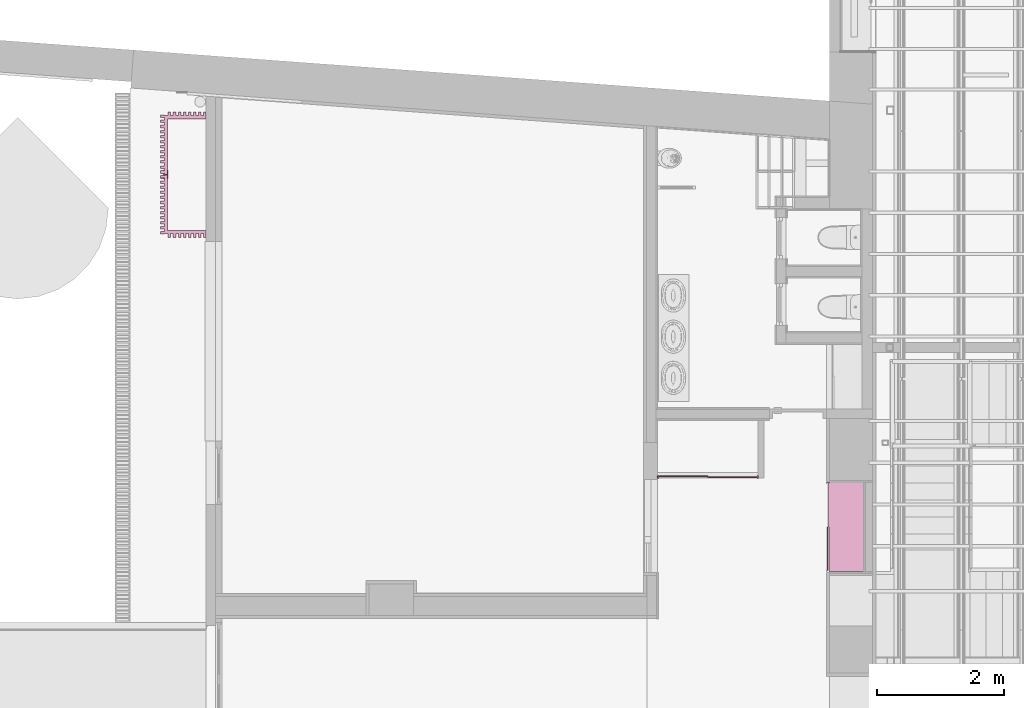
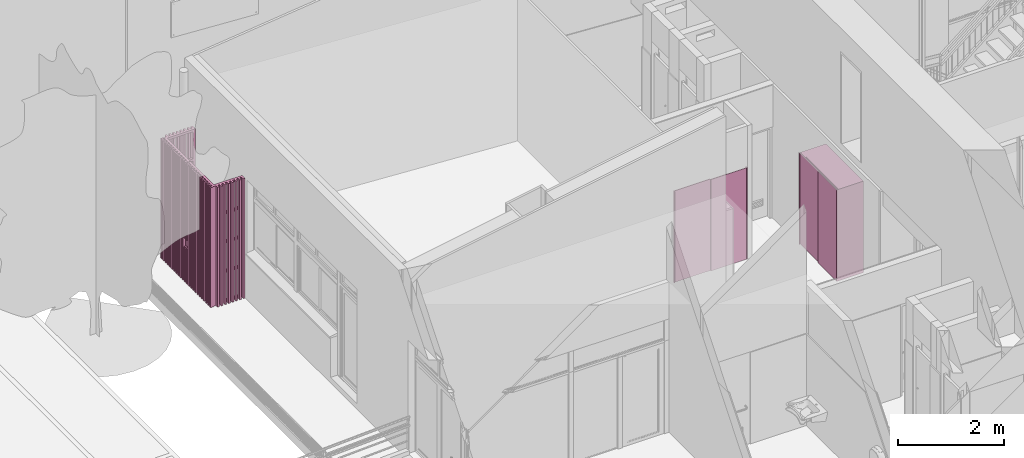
# One storey, part 70 of 75: 3 furnishings.
"""IFC2X3 building model written with IfcOpenShell, lengths in metres."""

from ifc_helpers import new_model, entity, si_unit, converted_unit, derived_unit, direction, frame, frame_2d, origin, origin_2d_with_axis, place, context, subcontext, project, spatial, polyline, rectangle, outline, extrude, source, transform, mapped, material, material_list, type_object, type_shapes, element, save


model = new_model("IFC2X3")

# Units and contexts
model_context = context("Model", 3, precision=1e-05, world=origin(), true_north=direction((6.12303176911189e-17, 1.0)))
body_context = subcontext(model_context, "Body", "Model", "MODEL_VIEW")
ifc_project = project(units=[si_unit("LENGTHUNIT", "METRE"), si_unit("AREAUNIT", "SQUARE_METRE"), si_unit("VOLUMEUNIT", "CUBIC_METRE"), converted_unit("PLANEANGLEUNIT", "DEGREE", entity("IfcRatioMeasure", 0.0174532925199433), si_unit("PLANEANGLEUNIT", "RADIAN"), dimensions=[0, 0, 0, 0, 0, 0, 0]), si_unit("MASSUNIT", "GRAM", prefix="KILO"), derived_unit("MASSDENSITYUNIT", [(si_unit("MASSUNIT", "GRAM", prefix="KILO"), 1), (si_unit("LENGTHUNIT", "METRE"), -3)]), derived_unit("MOMENTOFINERTIAUNIT", [(si_unit("LENGTHUNIT", "METRE"), 4)]), si_unit("TIMEUNIT", "SECOND"), si_unit("FREQUENCYUNIT", "HERTZ"), si_unit("THERMODYNAMICTEMPERATUREUNIT", "DEGREE_CELSIUS"), derived_unit("THERMALTRANSMITTANCEUNIT", [(si_unit("MASSUNIT", "GRAM", prefix="KILO"), 1), (si_unit("THERMODYNAMICTEMPERATUREUNIT", "KELVIN"), -1), (si_unit("TIMEUNIT", "SECOND"), -3)]), derived_unit("VOLUMETRICFLOWRATEUNIT", [(si_unit("LENGTHUNIT", "METRE"), 3), (si_unit("TIMEUNIT", "SECOND"), -1)]), si_unit("ELECTRICCURRENTUNIT", "AMPERE"), si_unit("ELECTRICVOLTAGEUNIT", "VOLT"), si_unit("POWERUNIT", "WATT"), si_unit("FORCEUNIT", "NEWTON", prefix="KILO"), si_unit("ILLUMINANCEUNIT", "LUX"), si_unit("LUMINOUSFLUXUNIT", "LUMEN"), si_unit("LUMINOUSINTENSITYUNIT", "CANDELA"), derived_unit("USERDEFINED", [(si_unit("MASSUNIT", "GRAM", prefix="KILO"), -1), (si_unit("LENGTHUNIT", "METRE"), -2), (si_unit("TIMEUNIT", "SECOND"), 3), (si_unit("LUMINOUSFLUXUNIT", "LUMEN"), 1)]), derived_unit("LINEARVELOCITYUNIT", [(si_unit("LENGTHUNIT", "METRE"), 1), (si_unit("TIMEUNIT", "SECOND"), -1)]), si_unit("PRESSUREUNIT", "PASCAL"), derived_unit("USERDEFINED", [(si_unit("LENGTHUNIT", "METRE"), -2), (si_unit("MASSUNIT", "GRAM", prefix="KILO"), 1), (si_unit("TIMEUNIT", "SECOND"), -2)]), derived_unit("LINEARFORCEUNIT", [(si_unit("MASSUNIT", "GRAM", prefix="KILO"), 1), (si_unit("LENGTHUNIT", "METRE"), 1), (si_unit("TIMEUNIT", "SECOND"), -2), (si_unit("LENGTHUNIT", "METRE"), -1)]), derived_unit("PLANARFORCEUNIT", [(si_unit("MASSUNIT", "GRAM", prefix="KILO"), 1), (si_unit("LENGTHUNIT", "METRE"), 1), (si_unit("TIMEUNIT", "SECOND"), -2), (si_unit("LENGTHUNIT", "METRE"), -2)])], contexts=[model_context])

# Site, building, storey
site_placement = place(None, origin())
site = spatial("IfcSite", under=ifc_project, at=site_placement, Name="Superficie", CompositionType="ELEMENT")
building_placement = place(site_placement, origin())
building = spatial("IfcBuilding", under=site, at=building_placement, Name="Telegestiones", CompositionType="ELEMENT")
storey_placement = place(building_placement, origin())
storey = spatial("IfcBuildingStorey", under=building, at=storey_placement, Name="Nivel 0_NPT", CompositionType="ELEMENT", Elevation=0.0)

# Furnishings
ifc_material_1 = material(Name="Aluminio")
ifc_material_2 = material(Name="Acero")
ifc_material_3 = material(Name="<Unnamed>")
ifc_material_list_1 = material_list([ifc_material_1, ifc_material_1, ifc_material_2, ifc_material_2, ifc_material_2, ifc_material_2, ifc_material_1, ifc_material_1, ifc_material_1, ifc_material_1, ifc_material_1, ifc_material_1, ifc_material_1, ifc_material_1, ifc_material_1, ifc_material_1, ifc_material_1, ifc_material_1, ifc_material_1, ifc_material_1, ifc_material_1, ifc_material_1, ifc_material_1, ifc_material_1, ifc_material_1, ifc_material_1, ifc_material_1, ifc_material_1, ifc_material_1, ifc_material_1, ifc_material_1, ifc_material_1, ifc_material_1, ifc_material_1, ifc_material_1, ifc_material_1, ifc_material_1, ifc_material_1, ifc_material_1, ifc_material_1, ifc_material_1, ifc_material_1, ifc_material_1, ifc_material_1, ifc_material_1, ifc_material_1, ifc_material_3])
ifc_material_list_2 = material_list([ifc_material_1, ifc_material_1, ifc_material_2, ifc_material_2, ifc_material_2, ifc_material_2, ifc_material_1, ifc_material_1, ifc_material_1, ifc_material_1, ifc_material_1, ifc_material_1, ifc_material_1, ifc_material_1, ifc_material_1, ifc_material_1, ifc_material_1, ifc_material_1, ifc_material_1, ifc_material_1, ifc_material_1, ifc_material_1, ifc_material_1, ifc_material_1, ifc_material_1, ifc_material_1, ifc_material_1, ifc_material_1, ifc_material_1, ifc_material_1, ifc_material_1, ifc_material_1, ifc_material_1, ifc_material_1, ifc_material_1, ifc_material_1, ifc_material_1, ifc_material_1, ifc_material_1, ifc_material_1, ifc_material_1, ifc_material_1, ifc_material_1, ifc_material_1, ifc_material_1, ifc_material_1, ifc_material_3])
furniture_type_1 = type_object("IfcFurnitureType", Name="ARQ-MB-EX-Al:ARQ-MB-EX-Al", material=ifc_material_list_2)
shared_shape_1 = source(origin(), body_context, "Body", "SweptSolid", [
    extrude(rectangle(XDim=0.06, YDim=0.0450000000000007, at=frame_2d((6.76542155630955e-17, 0.0), x_axis=(1.0, 0.0))), frame((0.00220032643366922, -0.73, 1.0), z_axis=(0.0, 0.0, 1.0), x_axis=(0.0, -1.0, 0.0)), (0.0, 0.0, 1.0), 1.75),
    extrude(rectangle(XDim=0.0399999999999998, YDim=0.0600000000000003, at=frame_2d((0.0, 6.76542155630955e-17), x_axis=(1.0, 0.0))), frame((0.0797003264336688, -0.73, 1.0), z_axis=(0.0, 0.0, 1.0), x_axis=(-1.0, 0.0, 0.0)), (0.0, 0.0, 1.0), 1.75),
    extrude(outline(polyline([(-1.375, -0.305), (1.375, -0.305), (1.375, 0.305), (-1.375, 0.305), (-1.375, -0.305)]), holes=[polyline([(-0.650000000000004, -0.255), (-0.650000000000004, 0.255), (-0.0250000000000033, 0.255), (-0.0250000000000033, -0.255), (-0.650000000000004, -0.255)]), polyline([(0.699999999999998, 0.255), (1.325, 0.255), (1.325, -0.255), (0.699999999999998, -0.255), (0.699999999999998, 0.255)]), polyline([(0.0249999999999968, -0.255), (0.0249999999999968, 0.255), (0.649999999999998, 0.255), (0.649999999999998, -0.255), (0.0249999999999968, -0.255)]), polyline([(-1.325, -0.255), (-1.325, 0.255), (-0.700000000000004, 0.255), (-0.700000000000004, -0.255), (-1.325, -0.255)])]), frame((-0.885299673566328, -0.345, 1.375), z_axis=(1.0, 0.0, 0.0), x_axis=(0.0, 0.0, -1.0)), (0.0, 0.0, 1.0), 0.05),
    extrude(outline(polyline([(-1.375, -0.304999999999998), (1.375, -0.304999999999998), (1.375, 0.304999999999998), (-1.375, 0.304999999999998), (-1.375, -0.304999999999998)]), holes=[polyline([(1.325, -0.254999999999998), (0.699999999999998, -0.254999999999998), (0.699999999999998, 0.255000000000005), (1.325, 0.255000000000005), (1.325, -0.254999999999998)]), polyline([(0.0249999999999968, 0.255000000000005), (0.649999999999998, 0.255000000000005), (0.649999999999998, -0.254999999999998), (0.0249999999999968, -0.254999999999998), (0.0249999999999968, 0.255000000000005)]), polyline([(-1.325, 0.255000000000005), (-0.700000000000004, 0.255000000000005), (-0.700000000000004, -0.254999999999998), (-1.325, -0.254999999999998), (-1.325, 0.255000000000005)]), polyline([(-0.650000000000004, 0.255000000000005), (-0.0250000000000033, 0.255000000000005), (-0.0250000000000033, -0.254999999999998), (-0.650000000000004, -0.254999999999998), (-0.650000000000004, 0.255000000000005)])]), frame((0.924700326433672, -0.345000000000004, 1.375), z_axis=(1.0, 0.0, 0.0), x_axis=(0.0, 0.0, -1.0)), (0.0, 0.0, 1.0), 0.05),
    extrude(outline(polyline([(-0.462500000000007, -1.375), (0.462500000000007, -1.375), (0.462500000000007, 1.375), (-0.462500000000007, 1.375), (-0.462500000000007, -1.375)]), holes=[polyline([(0.422500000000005, 0.700000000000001), (-0.412499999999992, 0.700000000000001), (-0.412499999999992, 1.325), (0.422500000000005, 1.325), (0.422500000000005, 0.700000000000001)]), polyline([(-0.412499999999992, -1.325), (-0.412499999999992, -0.700000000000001), (0.422500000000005, -0.700000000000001), (0.422500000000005, -1.325), (-0.412499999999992, -1.325)]), polyline([(-0.412499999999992, 0.025), (-0.412499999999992, 0.650000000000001), (0.422500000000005, 0.650000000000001), (0.422500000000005, 0.025), (-0.412499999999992, 0.025)]), polyline([(-0.412499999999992, -0.650000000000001), (-0.412499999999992, -0.025), (0.422500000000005, -0.025), (0.422500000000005, -0.650000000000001), (-0.412499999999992, -0.650000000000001)])]), frame((0.512200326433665, -0.700000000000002, 1.375), z_axis=(0.0, 1.0, 0.0), x_axis=(1.0, 0.0, 0.0)), (0.0, 0.0, 1.0), 0.05),
    extrude(outline(polyline([(-0.462500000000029, -1.375), (0.46250000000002, -1.375), (0.46250000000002, 1.375), (-0.462500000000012, 1.375), (-0.462500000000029, -1.375)]), holes=[polyline([(-0.412500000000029, -1.325), (-0.412499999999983, -0.700000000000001), (0.41250000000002, -0.700000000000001), (0.41250000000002, -1.325), (-0.412500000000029, -1.325)]), polyline([(0.412499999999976, 0.700000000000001), (-0.412500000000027, 0.700000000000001), (-0.412500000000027, 1.325), (0.412499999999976, 1.325), (0.412499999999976, 0.700000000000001)]), polyline([(0.412499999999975, 0.025), (-0.412500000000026, 0.025), (-0.412500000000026, 0.650000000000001), (0.412499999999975, 0.650000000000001), (0.412499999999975, 0.025)]), polyline([(0.41250000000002, -0.650000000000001), (-0.412500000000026, -0.650000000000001), (-0.412500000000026, -0.025), (0.41250000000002, -0.025), (0.41250000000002, -0.650000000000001)])]), frame((-0.422799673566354, -0.7, 1.375), z_axis=(0.0, 1.0, 0.0), x_axis=(-1.0, 0.0, 0.0)), (0.0, 0.0, 1.0), 0.05),
    extrude(rectangle(XDim=0.0400000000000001, YDim=0.0600000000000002, at=frame_2d((0.0, 6.76542155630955e-17), x_axis=(1.0, 0.0))), frame((-0.875299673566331, -0.729999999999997, 0.0)), (0.0, 0.0, 1.0), 2.75),
    extrude(rectangle(XDim=0.04, YDim=0.06, at=frame_2d((0.0, 6.76542155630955e-17), x_axis=(1.0, 0.0))), frame((-0.915299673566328, -0.0599999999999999, 0.0), z_axis=(0.0, 0.0, 1.0), x_axis=(0.0, -1.0, 0.0)), (0.0, 0.0, 1.0), 2.75),
    extrude(rectangle(XDim=0.04, YDim=0.06, at=frame_2d((-1.73472347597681e-17, -6.76542155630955e-17), x_axis=(1.0, 0.0))), frame((-0.915299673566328, -0.14, 0.0), z_axis=(0.0, 0.0, 1.0), x_axis=(0.0, -1.0, 0.0)), (0.0, 0.0, 1.0), 2.75),
    extrude(rectangle(XDim=0.04, YDim=0.06, at=frame_2d((1.73472347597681e-17, -6.76542155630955e-17), x_axis=(1.0, 0.0))), frame((-0.915299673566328, -0.22, 0.0), z_axis=(0.0, 0.0, 1.0), x_axis=(0.0, -1.0, 0.0)), (0.0, 0.0, 1.0), 2.75),
    extrude(rectangle(XDim=0.04, YDim=0.06, at=frame_2d((-1.73472347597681e-17, -6.76542155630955e-17), x_axis=(1.0, 0.0))), frame((-0.915299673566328, -0.3, 0.0), z_axis=(0.0, 0.0, 1.0), x_axis=(0.0, -1.0, 0.0)), (0.0, 0.0, 1.0), 2.75),
    extrude(rectangle(XDim=0.04, YDim=0.06, at=frame_2d((0.0, 6.76542155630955e-17), x_axis=(1.0, 0.0))), frame((-0.915299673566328, -0.38, 0.0), z_axis=(0.0, 0.0, 1.0), x_axis=(0.0, -1.0, 0.0)), (0.0, 0.0, 1.0), 2.75),
    extrude(rectangle(XDim=0.04, YDim=0.06, at=frame_2d((-6.76542155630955e-17, 6.76542155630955e-17), x_axis=(1.0, 0.0))), frame((-0.915299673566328, -0.46, 0.0), z_axis=(0.0, 0.0, 1.0), x_axis=(0.0, -1.0, 0.0)), (0.0, 0.0, 1.0), 2.75),
    extrude(rectangle(XDim=0.04, YDim=0.06, at=frame_2d((6.76542155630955e-17, -6.76542155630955e-17), x_axis=(1.0, 0.0))), frame((-0.915299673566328, -0.54, 0.0), z_axis=(0.0, 0.0, 1.0), x_axis=(0.0, -1.0, 0.0)), (0.0, 0.0, 1.0), 2.75),
    extrude(rectangle(XDim=0.04, YDim=0.06, at=frame_2d((-6.76542155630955e-17, -6.76542155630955e-17), x_axis=(1.0, 0.0))), frame((-0.915299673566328, -0.62, 0.0), z_axis=(0.0, 0.0, 1.0), x_axis=(0.0, -1.0, 0.0)), (0.0, 0.0, 1.0), 2.75),
    extrude(rectangle(XDim=0.04, YDim=0.0599999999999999, at=frame_2d((-5.20417042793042e-18, 0.0), x_axis=(1.0, 0.0))), frame((1.00470032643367, -0.0600000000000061, 0.0), z_axis=(0.0, 0.0, 1.0), x_axis=(0.0, -1.0, 0.0)), (0.0, 0.0, 1.0), 2.75),
    extrude(rectangle(XDim=0.04, YDim=0.0599999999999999, at=frame_2d((8.67361737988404e-18, 0.0), x_axis=(1.0, 0.0))), frame((1.00470032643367, -0.140000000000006, 0.0), z_axis=(0.0, 0.0, 1.0), x_axis=(0.0, -1.0, 0.0)), (0.0, 0.0, 1.0), 2.75),
    extrude(rectangle(XDim=0.04, YDim=0.0600000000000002, at=origin_2d_with_axis()), frame((1.00470032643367, -0.220000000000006, 0.0), z_axis=(0.0, 0.0, 1.0), x_axis=(0.0, -1.0, 0.0)), (0.0, 0.0, 1.0), 2.75),
    extrude(rectangle(XDim=0.0399999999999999, YDim=0.0600000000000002, at=frame_2d((1.56125112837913e-17, -1.35308431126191e-16), x_axis=(1.0, 0.0))), frame((1.00470032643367, -0.300000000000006, 0.0), z_axis=(0.0, 0.0, 1.0), x_axis=(0.0, -1.0, 0.0)), (0.0, 0.0, 1.0), 2.75),
    extrude(rectangle(XDim=0.0400000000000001, YDim=0.0599999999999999, at=origin_2d_with_axis()), frame((1.00470032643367, -0.380000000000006, 0.0), z_axis=(0.0, 0.0, 1.0), x_axis=(0.0, -1.0, 0.0)), (0.0, 0.0, 1.0), 2.75),
    extrude(rectangle(XDim=0.04, YDim=0.0599999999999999, at=origin_2d_with_axis()), frame((1.00470032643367, -0.460000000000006, 0.0), z_axis=(0.0, 0.0, 1.0), x_axis=(0.0, -1.0, 0.0)), (0.0, 0.0, 1.0), 2.75),
    extrude(rectangle(XDim=0.0400000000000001, YDim=0.0600000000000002, at=origin_2d_with_axis()), frame((1.00470032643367, -0.540000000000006, 0.0), z_axis=(0.0, 0.0, 1.0), x_axis=(0.0, -1.0, 0.0)), (0.0, 0.0, 1.0), 2.75),
    extrude(rectangle(XDim=0.0400000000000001, YDim=0.0600000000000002, at=frame_2d((0.0, 1.35308431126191e-16), x_axis=(1.0, 0.0))), frame((1.00470032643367, -0.620000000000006, 0.0), z_axis=(0.0, 0.0, 1.0), x_axis=(0.0, -1.0, 0.0)), (0.0, 0.0, 1.0), 2.75),
    extrude(rectangle(XDim=0.04, YDim=0.0600000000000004, at=frame_2d((6.76542155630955e-17, -6.76542155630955e-17), x_axis=(1.0, 0.0))), frame((-0.795299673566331, -0.729999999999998, 0.0)), (0.0, 0.0, 1.0), 2.75),
    extrude(rectangle(XDim=0.0400000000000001, YDim=0.0600000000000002, at=frame_2d((-1.35308431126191e-16, 6.76542155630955e-17), x_axis=(1.0, 0.0))), frame((-0.715299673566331, -0.729999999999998, 0.0)), (0.0, 0.0, 1.0), 2.75),
    extrude(rectangle(XDim=0.04, YDim=0.0600000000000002, at=frame_2d((-6.76542155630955e-17, -6.76542155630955e-17), x_axis=(1.0, 0.0))), frame((-0.635299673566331, -0.729999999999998, 0.0)), (0.0, 0.0, 1.0), 2.75),
    extrude(rectangle(XDim=0.04, YDim=0.0600000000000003, at=frame_2d((-3.29597460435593e-17, 0.0), x_axis=(1.0, 0.0))), frame((-0.555299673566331, -0.729999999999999, 0.0)), (0.0, 0.0, 1.0), 2.75),
    extrude(rectangle(XDim=0.04, YDim=0.0600000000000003, at=frame_2d((-3.29597460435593e-17, 0.0), x_axis=(1.0, 0.0))), frame((-0.475299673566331, -0.729999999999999, 0.0)), (0.0, 0.0, 1.0), 2.75),
    extrude(rectangle(XDim=0.04, YDim=0.0600000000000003, at=frame_2d((-3.29597460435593e-17, 0.0), x_axis=(1.0, 0.0))), frame((-0.395299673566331, -0.729999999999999, 0.0)), (0.0, 0.0, 1.0), 2.75),
    extrude(rectangle(XDim=0.04, YDim=0.06, at=origin_2d_with_axis()), frame((-0.315299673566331, -0.729999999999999, 0.0)), (0.0, 0.0, 1.0), 2.75),
    extrude(rectangle(XDim=0.0399999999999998, YDim=0.0600000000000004, at=frame_2d((3.46944695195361e-17, 6.76542155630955e-17), x_axis=(1.0, 0.0))), frame((-0.23529967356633, -0.729999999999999, 0.0)), (0.0, 0.0, 1.0), 2.75),
    extrude(rectangle(XDim=0.04, YDim=0.0600000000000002, at=frame_2d((3.29597460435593e-17, 6.76542155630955e-17), x_axis=(1.0, 0.0))), frame((-0.15529967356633, -0.73, 0.0)), (0.0, 0.0, 1.0), 2.75),
    extrude(rectangle(XDim=0.0399999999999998, YDim=0.0600000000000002, at=frame_2d((0.0, 6.76542155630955e-17), x_axis=(1.0, 0.0))), frame((-0.0752996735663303, -0.73, 0.0)), (0.0, 0.0, 1.0), 2.75),
    extrude(rectangle(XDim=0.04, YDim=0.0600000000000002, at=frame_2d((0.0, 6.76542155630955e-17), x_axis=(1.0, 0.0))), frame((0.16470032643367, -0.730000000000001, 0.0)), (0.0, 0.0, 1.0), 2.75),
    extrude(rectangle(XDim=0.0399999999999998, YDim=0.0600000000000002, at=frame_2d((0.0, 6.76542155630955e-17), x_axis=(1.0, 0.0))), frame((0.24470032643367, -0.730000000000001, 0.0)), (0.0, 0.0, 1.0), 2.75),
    extrude(rectangle(XDim=0.0400000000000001, YDim=0.0600000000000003, at=frame_2d((-6.76542155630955e-17, 0.0), x_axis=(1.0, 0.0))), frame((0.32470032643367, -0.730000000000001, 0.0)), (0.0, 0.0, 1.0), 2.75),
    extrude(rectangle(XDim=0.0400000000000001, YDim=0.0600000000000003, at=frame_2d((-6.76542155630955e-17, 0.0), x_axis=(1.0, 0.0))), frame((0.40470032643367, -0.730000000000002, 0.0)), (0.0, 0.0, 1.0), 2.75),
    extrude(rectangle(XDim=0.0400000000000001, YDim=0.0600000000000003, at=origin_2d_with_axis()), frame((0.48470032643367, -0.730000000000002, 0.0)), (0.0, 0.0, 1.0), 2.75),
    extrude(rectangle(XDim=0.0400000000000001, YDim=0.06, at=frame_2d((-6.76542155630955e-17, 1.35308431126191e-16), x_axis=(1.0, 0.0))), frame((0.56470032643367, -0.730000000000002, 0.0)), (0.0, 0.0, 1.0), 2.75),
    extrude(rectangle(XDim=0.0400000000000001, YDim=0.0600000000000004, at=frame_2d((0.0, -6.76542155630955e-17), x_axis=(1.0, 0.0))), frame((0.64470032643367, -0.730000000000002, 0.0)), (0.0, 0.0, 1.0), 2.75),
    extrude(rectangle(XDim=0.0400000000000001, YDim=0.0600000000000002, at=frame_2d((0.0, -6.76542155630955e-17), x_axis=(1.0, 0.0))), frame((0.72470032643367, -0.730000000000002, 0.0)), (0.0, 0.0, 1.0), 2.75),
    extrude(rectangle(XDim=0.0399999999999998, YDim=0.0600000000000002, at=frame_2d((0.0, 6.76542155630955e-17), x_axis=(1.0, 0.0))), frame((0.80470032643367, -0.730000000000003, 0.0)), (0.0, 0.0, 1.0), 2.75),
    extrude(rectangle(XDim=0.0400000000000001, YDim=0.0600000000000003, at=origin_2d_with_axis()), frame((0.88470032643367, -0.730000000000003, 0.0)), (0.0, 0.0, 1.0), 2.75),
    extrude(rectangle(XDim=0.0400000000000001, YDim=0.06, at=origin_2d_with_axis()), frame((0.96470032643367, -0.730000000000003, 0.0)), (0.0, 0.0, 1.0), 2.75),
    extrude(rectangle(XDim=0.06, YDim=0.0399999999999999, at=frame_2d((6.76542155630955e-17, 0.0), x_axis=(1.0, 0.0))), frame((0.00470032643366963, -0.73, 0.0), z_axis=(0.0, 0.0, 1.0), x_axis=(0.0, -1.0, 0.0)), (0.0, 0.0, 1.0), 0.8),
    extrude(rectangle(XDim=0.0399999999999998, YDim=0.0600000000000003, at=frame_2d((0.0, 6.76542155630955e-17), x_axis=(1.0, 0.0))), frame((0.0847003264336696, -0.73, 0.0), z_axis=(0.0, 0.0, 1.0), x_axis=(-1.0, 0.0, 0.0)), (0.0, 0.0, 1.0), 0.8),
    extrude(rectangle(XDim=0.0700000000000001, YDim=0.14, at=origin_2d_with_axis()), frame((0.0447003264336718, -0.675000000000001, 0.8), z_axis=(0.0, 0.0, 1.0), x_axis=(0.0, 1.0, 0.0)), (0.0, 0.0, 1.0), 0.2),
])
type_shapes(furniture_type_1, [shared_shape_1])
furnishing_1_placement = place(storey_placement, frame((-4.4451873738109, 9.2077705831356, -0.15), z_axis=(0.0, 0.0, 1.0), x_axis=(0.0, -1.0, 0.0)))
element("IfcFurnishingElement", 1, at=furnishing_1_placement, inside=storey, type_object=furniture_type_1, material=ifc_material_list_1, Name="ARQ-MB-EX-Al:ARQ-MB-EX-Al", ObjectType="ARQ-MB-EX-Al:ARQ-MB-EX-Al", context=body_context, shape_type="MappedRepresentation", body=[
    mapped(shared_shape_1, transform((0.0, 0.0, 0.0), scale=1.0)),
])
ifc_material_4 = material(Name="Caoba")
ifc_material_list_3 = material_list([ifc_material_4, ifc_material_4, ifc_material_4, ifc_material_3, ifc_material_3, ifc_material_2, ifc_material_2, ifc_material_4])
ifc_material_list_4 = material_list([ifc_material_4, ifc_material_4, ifc_material_4, ifc_material_3, ifc_material_3, ifc_material_2, ifc_material_2, ifc_material_4])
furniture_type_2 = type_object("IfcFurnitureType", Name="ARQ-MB-IN-Mad-Me:ARQ-MB-IN-141x210-Mad-Me4", material=ifc_material_list_4)
shared_shape_2 = source(origin(), body_context, "Body", "SweptSolid", [
    extrude(outline(polyline([(-0.838000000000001, 0.00899999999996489), (-0.838000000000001, -0.00899999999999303), (-0.372, -0.00899999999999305), (-0.372, -0.686999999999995), (-0.354, -0.686999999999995), (-0.354, -0.00899999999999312), (0.112000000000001, -0.00899999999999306), (0.112000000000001, -0.686999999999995), (0.130000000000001, -0.686999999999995), (0.130000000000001, -0.00899999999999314), (0.596000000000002, -0.00899999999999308), (0.596000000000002, -0.686999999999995), (0.614000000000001, -0.686999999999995), (0.614000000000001, 0.687000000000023), (0.596000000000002, 0.687000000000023), (0.596000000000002, 0.00899999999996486), (0.130000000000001, 0.0089999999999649), (0.130000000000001, 0.687000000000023), (0.112000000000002, 0.687000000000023), (0.112000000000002, 0.00899999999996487), (-0.354, 0.00899999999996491), (-0.354, 0.687000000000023), (-0.372000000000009, 0.687000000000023), (-0.372000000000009, 0.00899999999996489), (-0.838000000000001, 0.00899999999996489)])), frame((0.0447003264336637, -0.44, 1.244), z_axis=(0.0, -1.0, 0.0), x_axis=(0.0, 0.0, -1.0)), (0.0, 0.0, -1.0), 0.54),
    extrude(outline(polyline([(-1.5545, -0.705000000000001), (0.5455, -0.705000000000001), (0.5455, -0.687000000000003), (0.4635, -0.687000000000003), (0.4635, 0.687000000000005), (0.5455, 0.687000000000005), (0.5455, 0.704999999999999), (-1.5545, 0.704999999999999), (-1.5545, -0.705000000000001)]), holes=[polyline([(0.4455, -0.687000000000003), (-1.53649999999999, -0.687000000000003), (-1.53649999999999, 0.687000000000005), (0.4455, 0.687000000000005), (0.4455, -0.687000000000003)])]), frame((0.0447003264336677, -0.44, 0.5455), z_axis=(0.0, 1.0, 0.0), x_axis=(0.0, 0.0, -1.0)), (0.0, 0.0, 1.0), 0.54),
    extrude(rectangle(XDim=0.016, YDim=0.687, at=origin_2d_with_axis()), frame((0.388200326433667, -0.470000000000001, 0.0), z_axis=(0.0, 0.0, 1.0), x_axis=(0.0, 1.0, 0.0)), (0.0, 0.0, 1.0), 2.1),
    extrude(outline(polyline([(-0.00949999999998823, -0.0100000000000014), (0.00849999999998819, -0.0100000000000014), (0.00849999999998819, -0.00800000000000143), (-0.00749999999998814, -0.00800000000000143), (-0.00749999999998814, 0.00800000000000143), (0.00849999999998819, 0.00800000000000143), (0.00849999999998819, 0.0100000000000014), (-0.00949999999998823, 0.0100000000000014), (-0.00949999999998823, -0.0100000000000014)])), frame((0.740200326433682, -0.469999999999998, 0.0), z_axis=(0.0, 0.0, 1.0), x_axis=(-1.0, 0.0, 0.0)), (0.0, 0.0, 1.0), 2.1),
    extrude(outline(polyline([(-0.00949999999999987, -0.0100000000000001), (0.0085000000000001, -0.0100000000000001), (0.0085000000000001, -0.00800000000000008), (-0.00749999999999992, -0.00800000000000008), (-0.00749999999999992, 0.00799999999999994), (0.0085000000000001, 0.00799999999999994), (0.0085000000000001, 0.00999999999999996), (-0.00949999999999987, 0.00999999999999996), (-0.00949999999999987, -0.0100000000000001)])), frame((0.740200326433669, -0.45, 0.0), z_axis=(0.0, 0.0, 1.0), x_axis=(-1.0, 0.0, 0.0)), (0.0, 0.0, 1.0), 2.1),
    extrude(outline(polyline([(-0.00949999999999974, -0.00999999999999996), (0.00849999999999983, -0.00999999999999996), (0.00849999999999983, -0.00799999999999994), (-0.00749999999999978, -0.00799999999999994), (-0.00749999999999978, 0.00800000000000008), (0.00849999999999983, 0.00800000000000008), (0.00849999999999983, 0.0100000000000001), (-0.00949999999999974, 0.0100000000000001), (-0.00949999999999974, -0.00999999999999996)])), frame((-0.650799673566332, -0.47, 0.0)), (0.0, 0.0, 1.0), 2.1),
    extrude(outline(polyline([(-0.00849999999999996, -0.01), (0.00950000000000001, -0.01), (0.00950000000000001, 0.01), (-0.00849999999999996, 0.01), (-0.00849999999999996, 0.00800000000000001), (0.00750000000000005, 0.00800000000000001), (0.00750000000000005, -0.00800000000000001), (-0.00849999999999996, -0.00800000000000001), (-0.00849999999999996, -0.01)])), frame((-0.650799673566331, -0.45, 0.0), z_axis=(0.0, 0.0, 1.0), x_axis=(-1.0, 0.0, 0.0)), (0.0, 0.0, 1.0), 2.1),
    extrude(rectangle(XDim=0.016, YDim=0.687, at=origin_2d_with_axis()), frame((-0.298799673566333, -0.449999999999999, 0.0), z_axis=(0.0, 0.0, 1.0), x_axis=(0.0, 1.0, 0.0)), (0.0, 0.0, 1.0), 2.1),
])
type_shapes(furniture_type_2, [shared_shape_2])
furnishing_2_placement = place(storey_placement, frame((5.78928977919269, 3.64830755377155, 0.0), z_axis=(0.0, 0.0, 1.0), x_axis=(0.0, -1.0, 0.0)))
element("IfcFurnishingElement", 2, at=furnishing_2_placement, inside=storey, type_object=furniture_type_2, material=ifc_material_list_3, Name="ARQ-MB-IN-Mad-Me:ARQ-MB-IN-141x210-Mad-Me4", ObjectType="ARQ-MB-IN-Mad-Me:ARQ-MB-IN-141x210-Mad-Me4", context=body_context, shape_type="MappedRepresentation", body=[
    mapped(shared_shape_2, transform((0.0, 0.0, 0.0), scale=1.0)),
])
ifc_material_list_5 = material_list([ifc_material_4, ifc_material_3, ifc_material_3, ifc_material_2, ifc_material_2, ifc_material_4])
ifc_material_list_6 = material_list([ifc_material_4, ifc_material_3, ifc_material_3, ifc_material_2, ifc_material_2, ifc_material_4])
furniture_type_3 = type_object("IfcFurnitureType", Name="ARQ-MB-IN-Mad-Me2:ARQ-MB-IN-Mad-Me", material=ifc_material_list_6)
shared_shape_3 = source(origin(), body_context, "Body", "SweptSolid", [
    extrude(rectangle(XDim=0.016, YDim=0.777000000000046, at=frame_2d((-3.38271077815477e-17, -5.55111512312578e-17), x_axis=(1.0, 0.0))), frame((0.43320032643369, -0.370000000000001, 0.0), z_axis=(0.0, 0.0, 1.0), x_axis=(0.0, 1.0, 0.0)), (0.0, 0.0, 1.0), 2.1),
    extrude(outline(polyline([(-0.00949999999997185, -0.0100000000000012), (0.00849999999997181, -0.0100000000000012), (0.00849999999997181, -0.00800000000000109), (-0.00749999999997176, -0.00800000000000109), (-0.00749999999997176, 0.00800000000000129), (0.00849999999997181, 0.00800000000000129), (0.00849999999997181, 0.0100000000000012), (-0.00949999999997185, 0.0100000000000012), (-0.00949999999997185, -0.0100000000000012)])), frame((0.8302003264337, -0.369999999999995, 0.0), z_axis=(0.0, 0.0, 1.0), x_axis=(-1.0, 0.0, 0.0)), (0.0, 0.0, 1.0), 2.1),
    extrude(outline(polyline([(-0.00949999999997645, -0.01), (0.00849999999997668, -0.01), (0.00849999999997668, -0.00800000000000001), (-0.0074999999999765, -0.00800000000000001), (-0.0074999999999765, 0.00800000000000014), (0.00849999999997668, 0.00800000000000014), (0.00849999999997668, 0.0100000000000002), (-0.00949999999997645, 0.0100000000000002), (-0.00949999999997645, -0.01)])), frame((0.830200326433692, -0.349999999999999, 0.0), z_axis=(0.0, 0.0, 1.0), x_axis=(-1.0, 0.0, 0.0)), (0.0, 0.0, 1.0), 2.1),
    extrude(outline(polyline([(-0.00949999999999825, -0.00999999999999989), (0.00849999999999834, -0.00999999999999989), (0.00849999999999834, -0.00799999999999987), (-0.0074999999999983, -0.00799999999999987), (-0.0074999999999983, 0.00799999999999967), (0.00849999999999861, 0.00799999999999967), (0.00849999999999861, 0.00999999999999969), (-0.00949999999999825, 0.00999999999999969), (-0.00949999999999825, -0.00999999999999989)])), frame((-0.740799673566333, -0.369999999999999, 0.0)), (0.0, 0.0, 1.0), 2.1),
    extrude(outline(polyline([(-0.00849999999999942, -0.0100000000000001), (0.00949999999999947, -0.0100000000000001), (0.00949999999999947, 0.0100000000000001), (-0.00849999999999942, 0.0100000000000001), (-0.00849999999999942, 0.00800000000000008), (0.00749999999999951, 0.00800000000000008), (0.00749999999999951, -0.00800000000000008), (-0.00849999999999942, -0.00800000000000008), (-0.00849999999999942, -0.0100000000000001)])), frame((-0.740799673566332, -0.349999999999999, 0.0), z_axis=(0.0, 0.0, 1.0), x_axis=(-1.0, 0.0, 0.0)), (0.0, 0.0, 1.0), 2.1),
    extrude(rectangle(XDim=0.016, YDim=0.777000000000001, at=frame_2d((-3.38271077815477e-17, 0.0), x_axis=(1.0, 0.0))), frame((-0.343799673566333, -0.349999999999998, 0.0), z_axis=(0.0, 0.0, 1.0), x_axis=(0.0, 1.0, 0.0)), (0.0, 0.0, 1.0), 2.1),
])
type_shapes(furniture_type_3, [shared_shape_3])
furnishing_3_placement = place(storey_placement, frame((3.38770639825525, 4.7536060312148, 0.0)))
element("IfcFurnishingElement", 3, at=furnishing_3_placement, inside=storey, type_object=furniture_type_3, material=ifc_material_list_5, Name="ARQ-MB-IN-Mad-Me2:ARQ-MB-IN-Mad-Me", ObjectType="ARQ-MB-IN-Mad-Me2:ARQ-MB-IN-Mad-Me", context=body_context, shape_type="MappedRepresentation", body=[
    mapped(shared_shape_3, transform((0.0, 0.0, 0.0), scale=1.0)),
])

save(model, "model.ifc")
